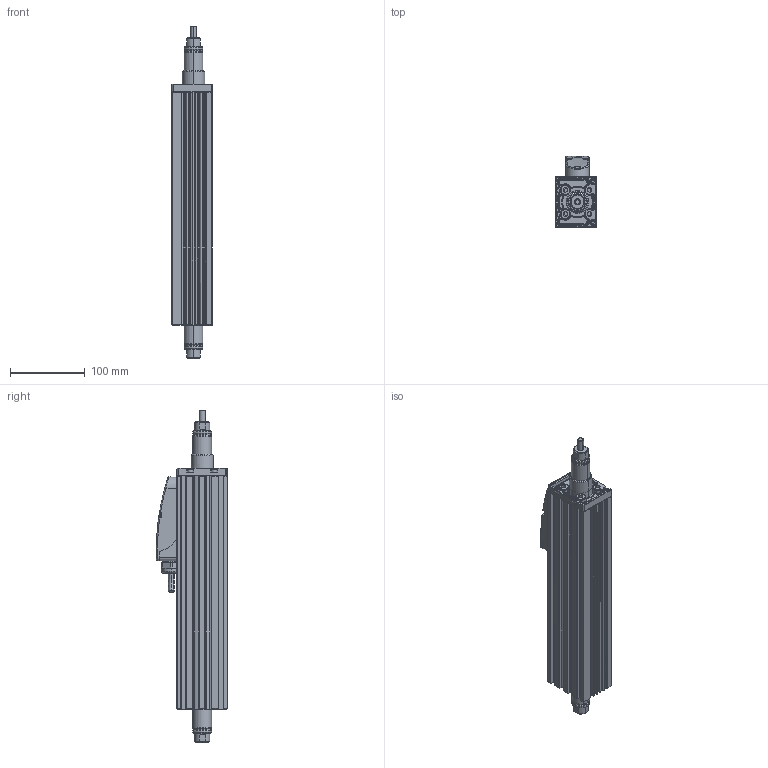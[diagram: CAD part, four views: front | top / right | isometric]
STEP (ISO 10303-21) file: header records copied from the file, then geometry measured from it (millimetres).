
FILE_DESCRIPTION (( 'STEP AP203' ), '1' );
FILE_NAME ('STA2510-053.STEP', '2011-10-13T13:14:46', ( 'showsden' ), ( '' ), 'SwSTEP 2.0', 'SolidWorks 2011', '' );
FILE_SCHEMA (( 'CONFIG_CONTROL_DESIGN' ));
Products named in the file (14): STA2510-053; TRA25 Thrust Rod - Solid_TRA2510 (053); Screw, Cap Head, M4_Screw, Cap Head, M4 x 16; STA25 Bearing End Support - Solid_MP02261; STA25 MOTOR HOUSING (REV-B)_STA2510; ST25 POD ASSEMBLY (DLS)_ST25 POD ASSEMBLY (SOLID); MP02254-D ST25 Pod Base Gasket_MP02254; ST25 CABLE ASSEMBLY (REV2)_MA02197 (FLEXING); POWER CABLE_FLEXING (POWER); SIGNAL CABLE_FLEXING (SIGNAL); PG16 Gland Nut (REV2)_PG16 (REV 2); Screw, Button Head, M3_Screw, Button Head, M3 x 10; Screw, Cap Head, M2.5_Screw, Cap Head, M2.5 x 6; ST25 POD (DLS)_ST25 POD (SOLID)
Assembly tree (20 placements, depth 4):
  STA2510-053
    Screw, Cap Head, M4_Screw, Cap Head, M4 x 16  x4
    STA25 MOTOR HOUSING (REV-B)_STA2510
    ST25 POD ASSEMBLY (DLS)_ST25 POD ASSEMBLY (SOLID)
      Screw, Cap Head, M2.5_Screw, Cap Head, M2.5 x 6  x2
      ST25 POD (DLS)_ST25 POD (SOLID)
      Screw, Button Head, M3_Screw, Button Head, M3 x 10  x4
      MP02254-D ST25 Pod Base Gasket_MP02254
      ST25 CABLE ASSEMBLY (REV2)_MA02197 (FLEXING)
        POWER CABLE_FLEXING (POWER)
        PG16 Gland Nut (REV2)_PG16 (REV 2)
        SIGNAL CABLE_FLEXING (SIGNAL)
    TRA25 Thrust Rod - Solid_TRA2510 (053)
    STA25 Bearing End Support - Solid_MP02261
Bounding box: 54 x 95.5 x 445 mm (x, y, z)
Volume: 1105725.1 mm3; surface area: 268800.6 mm2
Topology: 18 solids, 18 shells, 1636 faces, 4226 edges, 2687 vertices
Faces by surface type: plane 567, cylinder 516, bspline 365, cone 116, torus 56, sphere 16
Entity records: 75343 total; most frequent: CARTESIAN_POINT 39247, ORIENTED_EDGE 7888, DIRECTION 6221, EDGE_CURVE 3944, VERTEX_POINT 2531, AXIS2_PLACEMENT_3D 2326, EDGE_LOOP 1659, LINE 1569
